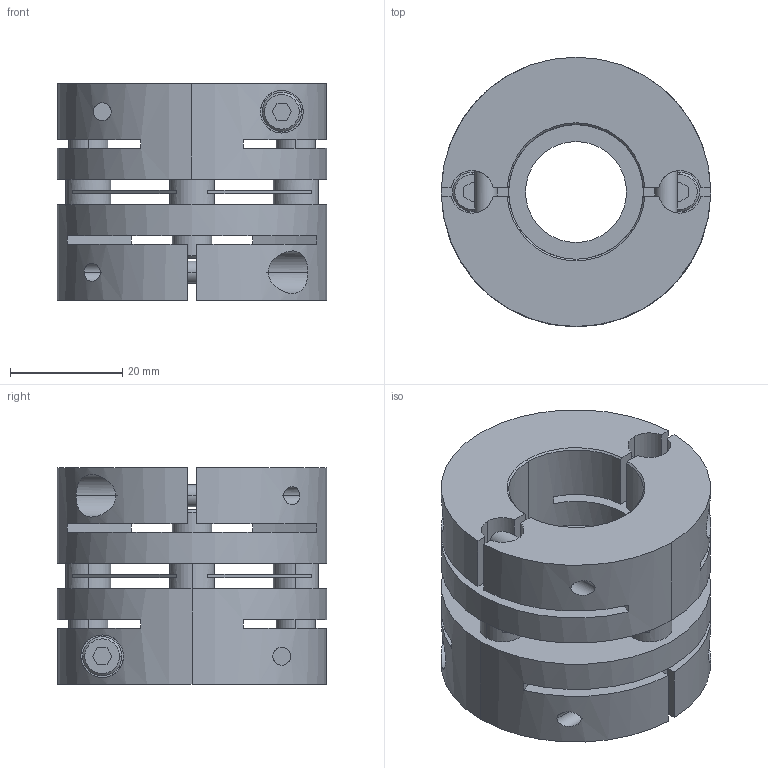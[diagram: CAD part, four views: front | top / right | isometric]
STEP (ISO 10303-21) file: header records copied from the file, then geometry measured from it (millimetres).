
FILE_DESCRIPTION((''),'2;1');
FILE_NAME('LAS-48C-24×24.stp','2015-10-14T15:49:09',(''),(''),'AutoCAD STEP 2000i','AutoCAD 2000i',', , ');
FILE_SCHEMA(('CONFIG_CONTROL_DESIGN'));
Length unit declared in the file: millimetre
Products named in the file (7): LAS-48C-19×19; 忣兜1; LA-4802-D19-1; LA-4802-D19; LA-4802-D12-1; LA-4802-D12; LAS48-ITA
Assembly tree (6 placements, depth 2):
  LAS-48C-19×19
    忣兜1
    LA-4802-D19-1
    LA-4802-D19
    LA-4802-D12-1
    LA-4802-D12
    LAS48-ITA
Bounding box: 48 x 48 x 38.6 mm (x, y, z)
Volume: 41743.3 mm3; surface area: 20937.3 mm2
Topology: 1 solids, 1 shells, 224 faces, 612 edges, 400 vertices
Faces by surface type: plane 112, cylinder 84, cone 28
Entity records: 8075 total; most frequent: CARTESIAN_POINT 2043, DIRECTION 1262, ORIENTED_EDGE 1224, EDGE_CURVE 612, AXIS2_PLACEMENT_3D 459, VERTEX_POINT 400, VECTOR 344, LINE 344
